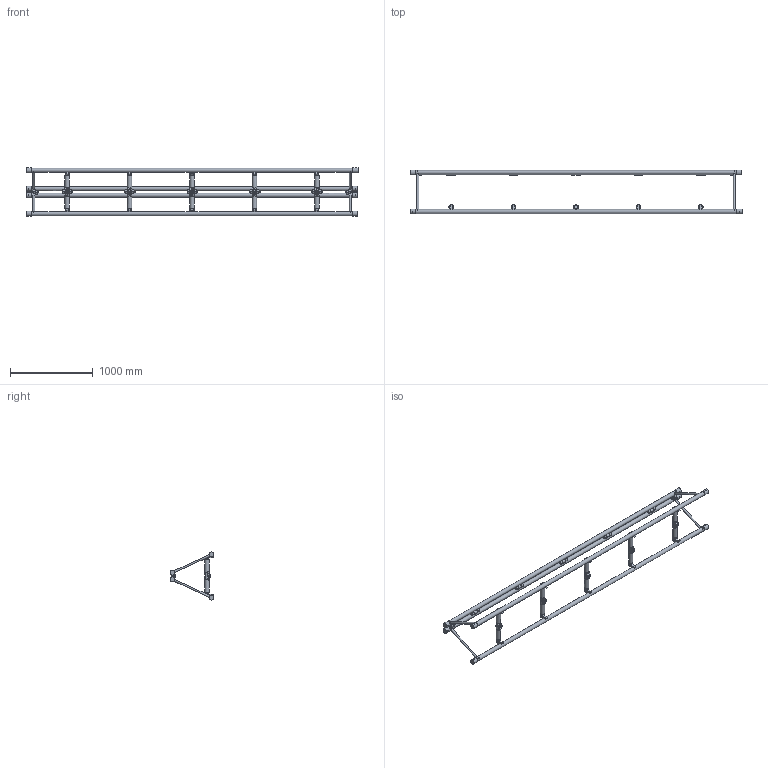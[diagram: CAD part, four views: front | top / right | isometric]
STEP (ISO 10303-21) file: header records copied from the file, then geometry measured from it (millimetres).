
FILE_DESCRIPTION(/* description */ (''),/* implementation_level */ '2;1');
FILE_NAME(/* name */ 'M:\Symbolen_NIEUW\STP\52-er truss\S52F\S52F-L400_111110091.stp',/* time_stamp */ '2017-11-10T14:58:28+01:00',/* author */ ('Kees'),/* organization */ (''),/* preprocessor_version */ 'ST-DEVELOPER v16.13',/* originating_system */ 'Autodesk Inventor 2018',/* authorisation */ '');
FILE_SCHEMA (('AUTOMOTIVE_DESIGN { 1 0 10303 214 3 1 1 }'));
Length unit declared in the file: millimetre
Products named in the file (1): 260008558
Bounding box: 4000 x 528.69 x 578.79 mm (x, y, z)
Volume: 38837781.9 mm3; surface area: 3534520.4 mm2
Topology: 18 solids, 18 shells, 1302 faces, 3350 edges, 2203 vertices
Faces by surface type: plane 866, cylinder 327, cone 109
Full cylindrical faces by diameter (mm): 10 x8, 12 x34, 12.5 x19, 12.8 x20, 13 x32, 17.4 x14, 24 x12, 25 x4, 50 x14, 54 x10, 58.8 x8
Entity records: 40611 total; most frequent: CARTESIAN_POINT 8688, DIRECTION 6359, ORIENTED_EDGE 6114, EDGE_CURVE 3057, AXIS2_PLACEMENT_3D 2311, VERTEX_POINT 2172, EDGE_LOOP 1849, LINE 1737
